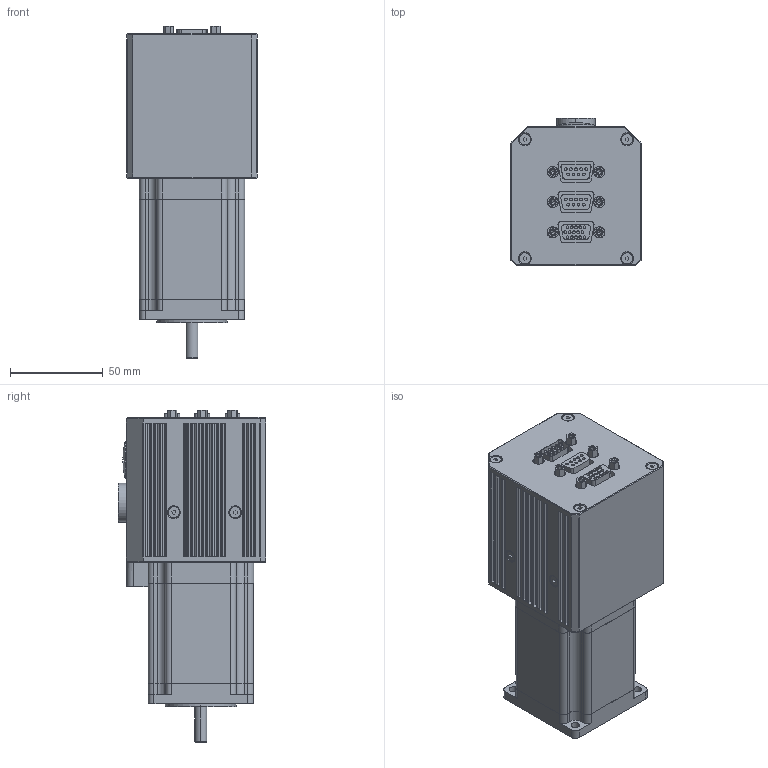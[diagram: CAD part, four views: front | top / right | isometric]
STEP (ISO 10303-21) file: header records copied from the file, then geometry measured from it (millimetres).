
FILE_DESCRIPTION (( 'STEP AP203' ), '1' );
FILE_NAME ('ﾑﾏﾘ20-23017_2000Z.STEP', '2010-05-04T12:38:57', ( 'User' ), ( 'Microsoft Corporation' ), 'SwSTEP 2.0', 'SolidWorks 2008', '' );
FILE_SCHEMA (( 'CONFIG_CONTROL_DESIGN' ));
Length unit declared in the file: millimetre
Products named in the file (1): ﾑﾏﾘ20-23017_2000Z
Bounding box: 70 x 79.5 x 178.6 mm (x, y, z)
Volume: 345691.4 mm3; surface area: 93360.6 mm2
Topology: 1 solids, 20 shells, 1468 faces, 3571 edges, 2304 vertices
Faces by surface type: plane 663, cylinder 631, cone 160, torus 12, sphere 2
Entity records: 43118 total; most frequent: DIRECTION 7915, CARTESIAN_POINT 7314, ORIENTED_EDGE 7070, EDGE_CURVE 3535, AXIS2_PLACEMENT_3D 2913, VERTEX_POINT 2304, VECTOR 2089, LINE 2089
